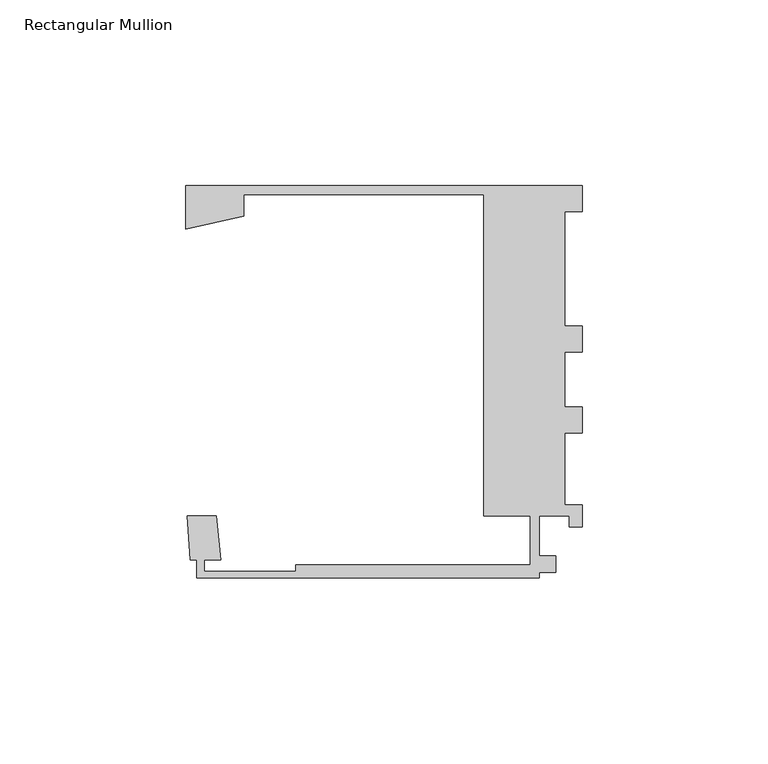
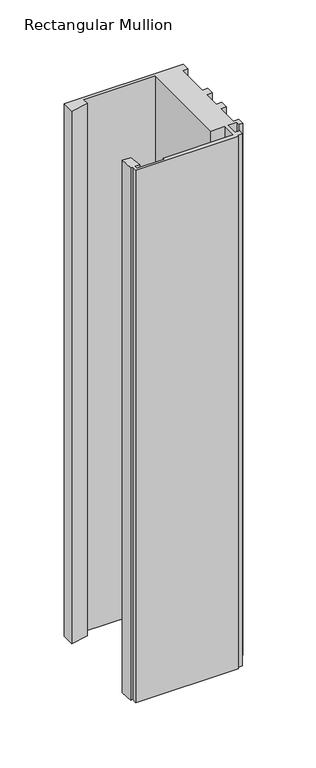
"""IFC4 building model written with IfcOpenShell, lengths in millimetres: member geometry, Rectangular Mullion : Danpal_Airpt_End-Mullion_B1."""

from ifc_helpers import new_model, si_unit, frame, origin, place, context, project, spatial, polyline, outline, extrude, source, transform, mapped, element, save


def rectangular_mullion_388b4376(model_context):
    return source(origin(), model_context, "Body", "SweptSolid", [
        extrude(outline(polyline([(-11.6055875, -92.6094337), (-103.8999976, -92.6094337), (-103.8999976, -87.7698451), (-105.6776694, -87.7698451), (-106.4274982, -75.8596534), (-98.5693208, -75.8596534), (-97.4384397, -87.7698451), (-101.8999976, -87.7698451), (-101.8999976, -90.8094336), (-77.1531178, -90.8094336), (-77.1531178, -89.1094336), (-14.1055875, -89.1094336), (-14.1055875, -75.8596534), (-26.6209612, -75.8596534), (-26.6209612, 10.6837558), (-91.2900275, 10.6837558), (-91.2900275, 4.9090081), (-106.8892292, 1.4378016), (-106.8892292, 13.1837558), (0.0, 13.1837558), (0.0, 6.1837558), (-4.8, 6.1837558), (-4.8, -24.6595054), (0.0, -24.6595054), (0.0, -31.6595227), (-4.8, -31.6595227), (-4.8, -46.4688518), (0.0, -46.4688518), (0.0, -53.4688518), (-4.8, -53.4688518), (-4.8, -72.9077707), (0.0, -72.9077707), (0.0, -78.8594337), (-3.5072447, -78.8594337), (-3.5072447, -75.8594337), (-11.6055875, -75.8594337), (-11.6055875, -86.6049249), (-7.1518595, -86.6049249), (-7.1518595, -91.1094337), (-11.6055875, -91.1094337), (-11.6055875, -92.6094337)])), frame((0.0, 0.0, -505.2700979), z_axis=(0.0, 0.0, 1.0), x_axis=(1.0, 0.0, 0.0)), (0.0, 0.0, 1.0), 505.2700979),
    ])


if __name__ == "__main__":
    model = new_model("IFC4")
    model_context = context("Model", 3, world=origin())
    ifc_project = project(units=[si_unit("LENGTHUNIT", "METRE", prefix="MILLI")], contexts=[model_context])
    site = spatial("IfcSite", under=ifc_project)
    building = spatial("IfcBuilding", under=site)
    placement = place(None, origin())
    rectangular_mullion_shape = rectangular_mullion_388b4376(model_context)
    element("IfcMember", 1, ObjectType="Rectangular Mullion : Danpal_Airpt_End-Mullion_B1", at=placement, inside=building, context=model_context, shape_type="MappedRepresentation", body=[
        mapped(rectangular_mullion_shape, transform((0.0, 0.0, 0.0), x_axis=(1.0, 0.0, 0.0), y_axis=(0.0, 1.0, 0.0), z_axis=(0.0, 0.0, 1.0))),
    ])
    save(model, "model.ifc")
